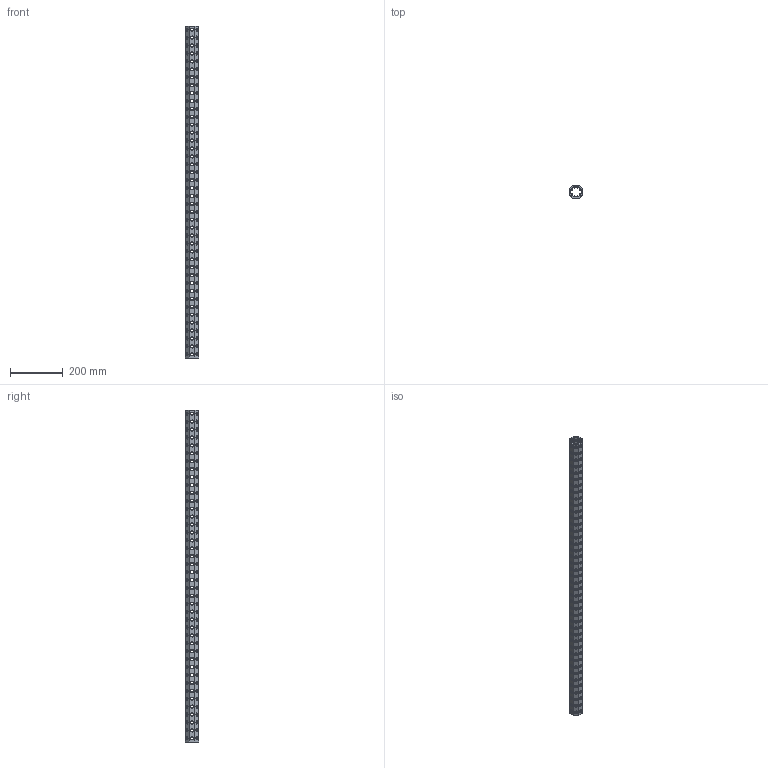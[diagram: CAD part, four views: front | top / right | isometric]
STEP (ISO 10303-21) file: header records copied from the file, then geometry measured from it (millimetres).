
FILE_DESCRIPTION(('CATIA V5 STEP Exchange'),'2;1');
FILE_NAME('U:\Room\唐宝山\EGT002\46-01-010271-01-EGT002-1258.stp','2021-08-24T01:19:54+00:00',('none'),('none'),'CATIA Version 5 Release 21 GA (IN-10)','CATIA V5 STEP AP203','none');
FILE_SCHEMA(('CONFIG_CONTROL_DESIGN'));
Products named in the file (1): 46-01-010271-01-EGT002-1258
Bounding box: 50 x 50 x 1258 mm (x, y, z)
Volume: 896219.1 mm3; surface area: 432747.3 mm2
Topology: 1 solids, 1 shells, 1764 faces, 4866 edges, 3020 vertices
Faces by surface type: cone 1008, cylinder 730, plane 26
Entity records: 71629 total; most frequent: CARTESIAN_POINT 28814, ORIENTED_EDGE 9732, DIRECTION 6905, EDGE_CURVE 4866, AXIS2_PLACEMENT_3D 3248, VERTEX_POINT 3020, EDGE_LOOP 2354, VECTOR 1894
